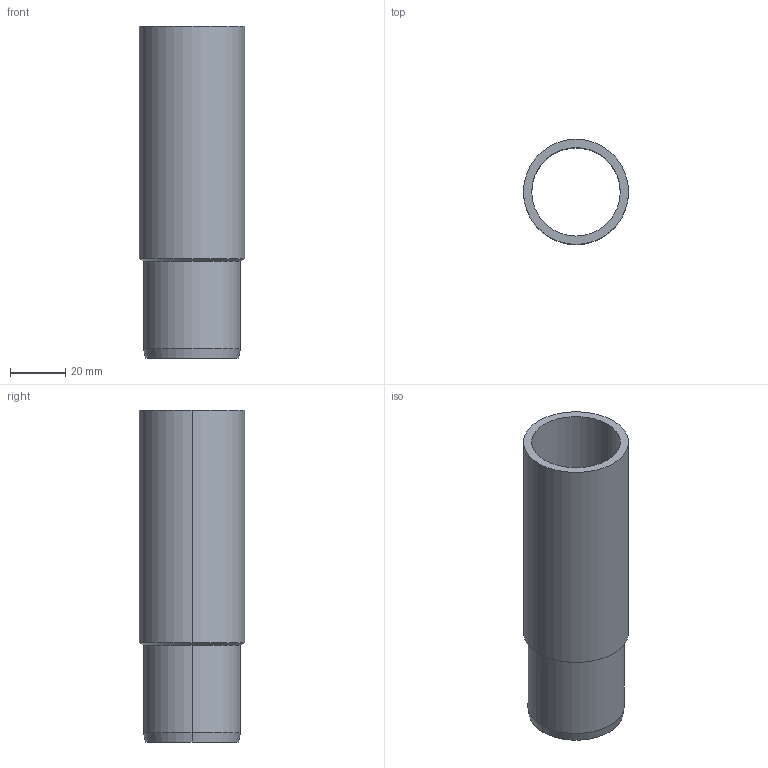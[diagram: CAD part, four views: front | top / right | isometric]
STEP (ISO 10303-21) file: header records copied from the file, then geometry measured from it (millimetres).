
FILE_DESCRIPTION(('OneSpaceDesigner STEP Export'),'2;1');
FILE_NAME('C1432 38x35.stp','2010-06-15T16:31:25',(''),(''),'OneSpace Designer STEP processor for AP214 (Solid Model)','OneSpace Modeling 15.00A 14-Mar-2007 (C) CoCreate Software GmbH','');
FILE_SCHEMA(('AUTOMOTIVE_DESIGN { 1 0 10303 214 1 1 1 1 }'));
Length unit declared in the file: millimetre
Products named in the file (2): C1432_38x35
Assembly tree (1 placements, depth 2):
  C1432_38x35
    C1432_38x35
Bounding box: 38 x 38 x 120 mm (x, y, z)
Volume: 33377.5 mm3; surface area: 26576.9 mm2
Topology: 1 solids, 1 shells, 12 faces, 24 edges, 14 vertices
Faces by surface type: cylinder 6, cone 4, plane 2
Entity records: 303 total; most frequent: ORIENTED_EDGE 48, DIRECTION 42, CARTESIAN_POINT 40, EDGE_CURVE 24, AXIS2_PLACEMENT_3D 16, VERTEX_POINT 14, EDGE_LOOP 14, FACE_OUTER_BOUND 12
